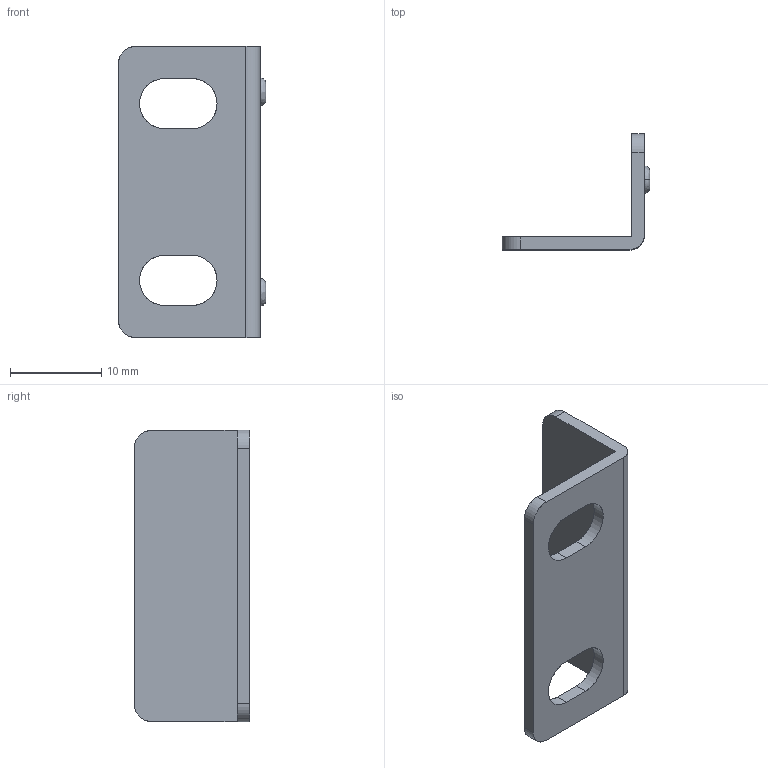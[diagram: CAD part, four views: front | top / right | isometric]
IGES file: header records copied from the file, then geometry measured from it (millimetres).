
Start section: SolidWorks IGES file using analytic representation for surfaces
Bounding box: 16.2 x 12.7 x 32 mm (x, y, z)
Surface area: 1762.1 mm2 (no closed solid volume)
Topology: 0 solids, 0 shells, 27 faces, 448 edges, 448 vertices
Faces by surface type: bspline 18, revolution 9
